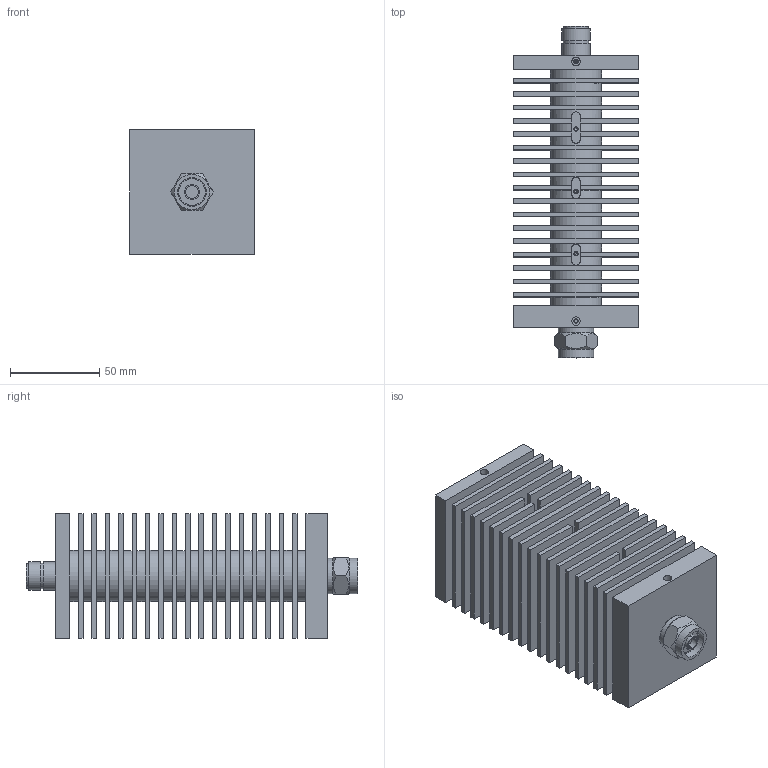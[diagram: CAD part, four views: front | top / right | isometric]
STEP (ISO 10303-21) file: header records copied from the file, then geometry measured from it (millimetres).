
FILE_DESCRIPTION(/* description */ ('Unknown'),/* implementation_level */ '2;1');
FILE_NAME(/* name */ '100-SA-MFN-XX_RevA',/* time_stamp */ '2019-09-19T09:43:39-04:00',/* author */ ('Unknown'),/* organization */ ('Unknown'),/* preprocessor_version */ 'ST-DEVELOPER v16.7',/* originating_system */ 'DEX',/* authorisation */ $);
FILE_SCHEMA (('AUTOMOTIVE_DESIGN {1 0 10303 214 3 1 1}'));
Length unit declared in the file: millimetre
Products named in the file (1): 100-SA-MFN-XX
Bounding box: 69.85 x 185.9 x 69.85 mm (x, y, z)
Volume: 341953.8 mm3; surface area: 209830.4 mm2
Topology: 1 solids, 1 shells, 822 faces, 2920 edges, 1948 vertices
Faces by surface type: plane 730, cylinder 77, cone 15
Full cylindrical faces by diameter (mm): 1.27 x2, 1.694 x5, 1.829 x1, 2.388 x5, 2.647 x2, 3.04 x1, 4.75 x2, 7 x1, 8.077 x1, 9.246 x1, 11.024 x2, 11.43 x1, 13.462 x1, 14.122 x1, 14.834 x1, 15.753 x1, 15.875 x1, 16.002 x1, 19.05 x1, 19.152 x1, 19.71 x2, 28.575 x17
Entity records: 37328 total; most frequent: CARTESIAN_POINT 5971, ORIENTED_EDGE 5642, DIRECTION 4916, EDGE_CURVE 2821, LINE 2194, VECTOR 2194, VERTEX_POINT 1917, AXIS2_PLACEMENT_3D 1361
